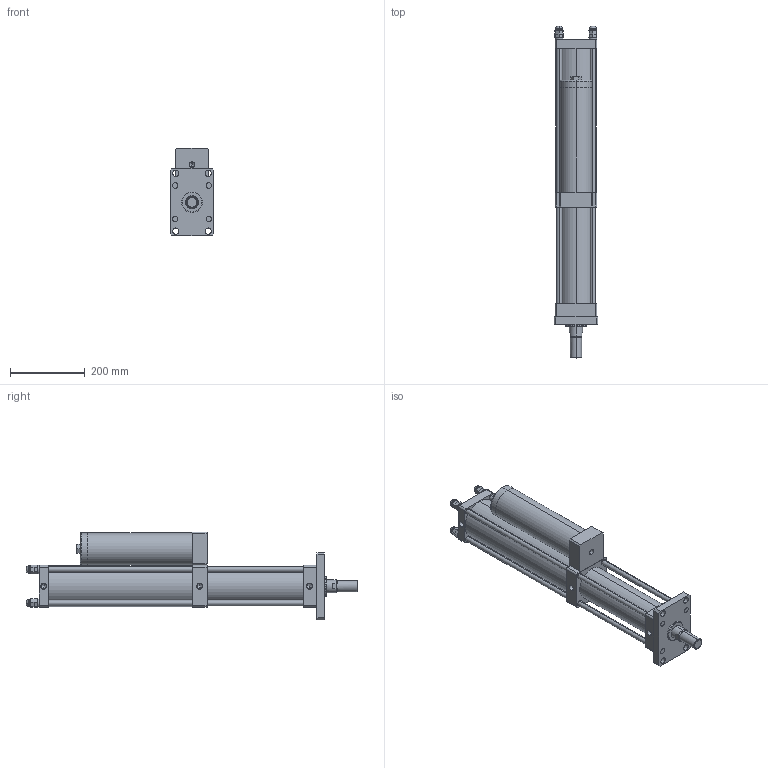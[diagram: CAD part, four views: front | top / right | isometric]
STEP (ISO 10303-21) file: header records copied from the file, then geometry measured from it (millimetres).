
FILE_DESCRIPTION (( 'STEP AP203' ), '1' );
FILE_NAME ('MPT-80-100-20-8T.STEP', '2016-03-11T03:28:36', ( 'WIN' ), ( '' ), 'SwSTEP 2.0', 'SolidWorks 2014', '' );
FILE_SCHEMA (( 'CONFIG_CONTROL_DESIGN' ));
Length unit declared in the file: millimetre
Products named in the file (1): MPT-80-100-20-8T
Bounding box: 118 x 891.01 x 235 mm (x, y, z)
Volume: 7640486.2 mm3; surface area: 833122.1 mm2
Topology: 20 solids, 20 shells, 400 faces, 968 edges, 562 vertices
Faces by surface type: plane 187, cylinder 90, torus 48, bspline 48, cone 27
Entity records: 12732 total; most frequent: CARTESIAN_POINT 3707, DIRECTION 1901, ORIENTED_EDGE 1804, EDGE_CURVE 902, AXIS2_PLACEMENT_3D 700, VERTEX_POINT 562, VECTOR 501, LINE 501
